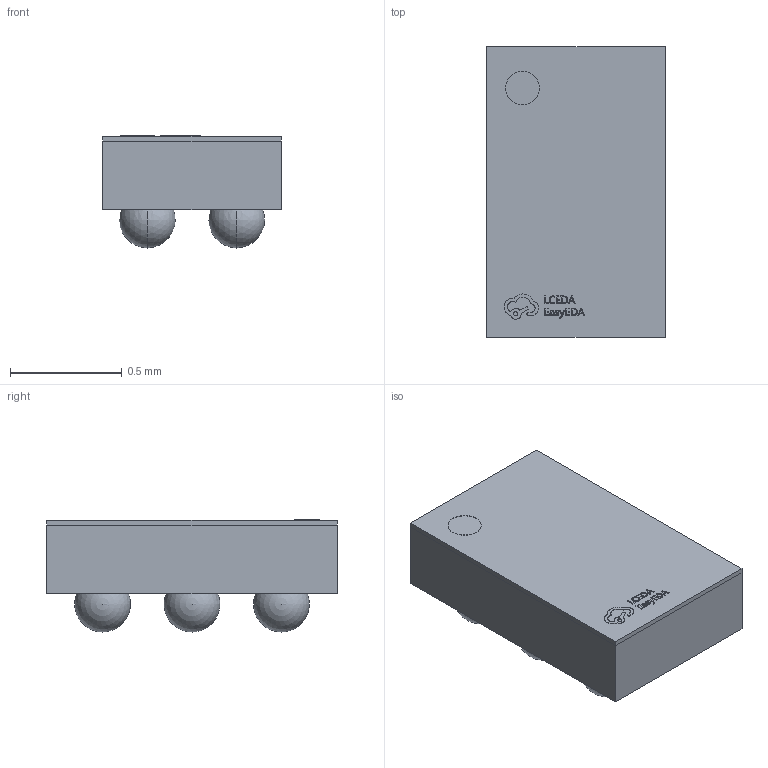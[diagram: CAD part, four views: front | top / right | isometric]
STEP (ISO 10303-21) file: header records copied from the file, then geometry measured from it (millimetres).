
FILE_DESCRIPTION (( 'STEP AP214' ), '1' );
FILE_NAME ('BGA-6_L1.3-W0.8-P0.40-TL_PTMAG3001A2YBGR.STEP', '2024-06-15T00:36:27', ( '' ), ( '' ), 'SwSTEP 2.0', 'SolidWorks 2020', '' );
FILE_SCHEMA (( 'AUTOMOTIVE_DESIGN' ));
Length unit declared in the file: millimetre
Products named in the file (1): BGA-6_L1.3-W0.8-P0.40-TL_PTMAG3001A2YBGR
Bounding box: 0.8 x 1.3 x 0.5 mm (x, y, z)
Volume: 0.4 mm3; surface area: 6.1 mm2
Topology: 2 solids, 2 shells, 251 faces, 699 edges, 466 vertices
Faces by surface type: plane 139, bspline 98, sphere 12, cylinder 2
Entity records: 11095 total; most frequent: CARTESIAN_POINT 2675, ORIENTED_EDGE 1338, DIRECTION 805, EDGE_CURVE 669, VERTEX_POINT 448, LINE 441, VECTOR 441, EDGE_LOOP 277
